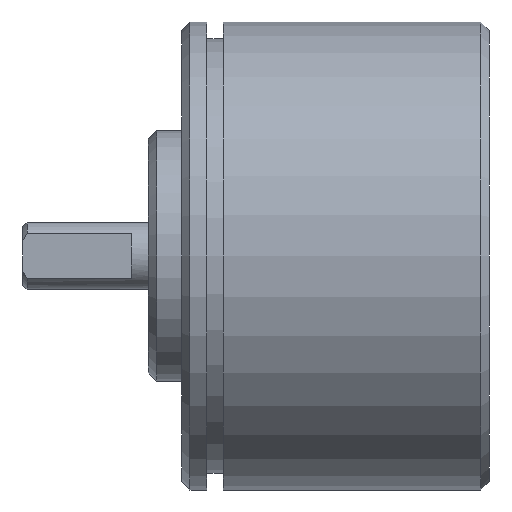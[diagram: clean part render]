
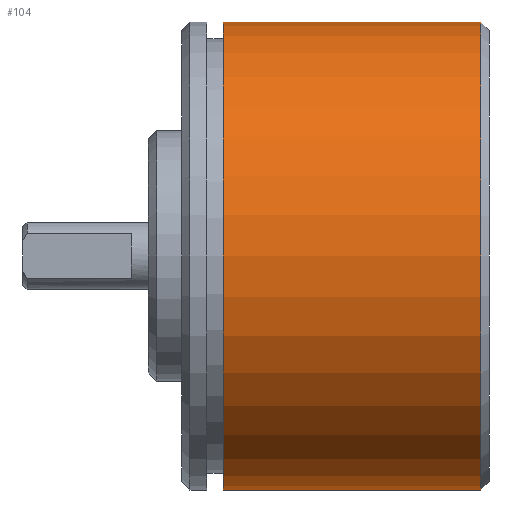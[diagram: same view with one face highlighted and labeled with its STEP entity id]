
A CAD part, front view. The second image highlights one B-rep face of the part: STEP entity #104.
In plain terms, the highlighted cylindrical face has radius 28 mm (diameter 56 mm), a full revolution.
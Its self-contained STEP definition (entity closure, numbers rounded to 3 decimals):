
#104=ADVANCED_FACE('',(#213,#214,#215),#216,.T.);
#213=FACE_OUTER_BOUND('',#368,.T.);
#214=FACE_OUTER_BOUND('',#369,.T.);
#215=FACE_BOUND('',#370,.T.);
#216=CYLINDRICAL_SURFACE('',#371,28.0);
#368=EDGE_LOOP('',(#556));
#369=EDGE_LOOP('',(#557));
#370=EDGE_LOOP('',(#558,#559,#560,#561,#562,#563));
#371=AXIS2_PLACEMENT_3D('',#564,#565,#566);
#556=ORIENTED_EDGE('',*,*,#838,.T.);
#557=ORIENTED_EDGE('',*,*,#839,.F.);
#558=ORIENTED_EDGE('',*,*,#840,.F.);
#559=ORIENTED_EDGE('',*,*,#841,.F.);
#560=ORIENTED_EDGE('',*,*,#842,.F.);
#561=ORIENTED_EDGE('',*,*,#843,.T.);
#562=ORIENTED_EDGE('',*,*,#844,.F.);
#563=ORIENTED_EDGE('',*,*,#845,.T.);
#564=CARTESIAN_POINT('',(0.0,0.0,0.0));
#565=DIRECTION('',(-1.0,0.0,0.0));
#566=DIRECTION('',(0.0,0.0,1.0));
#838=EDGE_CURVE('',#947,#947,#948,.T.);
#839=EDGE_CURVE('',#949,#949,#950,.T.);
#840=EDGE_CURVE('',#951,#952,#953,.F.);
#841=EDGE_CURVE('',#954,#951,#955,.T.);
#842=EDGE_CURVE('',#956,#954,#957,.T.);
#843=EDGE_CURVE('',#956,#958,#959,.T.);
#844=EDGE_CURVE('',#960,#958,#961,.T.);
#845=EDGE_CURVE('',#960,#952,#962,.T.);
#947=VERTEX_POINT('',#1102);
#948=CIRCLE('',#1103,28.0);
#949=VERTEX_POINT('',#1104);
#950=CIRCLE('',#1105,28.0);
#951=VERTEX_POINT('',#1106);
#952=VERTEX_POINT('',#1107);
#953=LINE('',#1108,#1109);
#954=VERTEX_POINT('',#1110);
#955=CIRCLE('',#1111,28.0);
#956=VERTEX_POINT('',#1112);
#957=LINE('',#1113,#1114);
#958=VERTEX_POINT('',#1115);
#959=CIRCLE('',#1116,28.0);
#960=VERTEX_POINT('',#1117);
#961=B_SPLINE_CURVE_WITH_KNOTS('',3,(#1118,#1119,#1120,#1121,#1122,#1123,#1124,#1125,#1126,#1127,#1128,#1129,#1130,#1131,#1132,#1133,#1134,#1135,#1136,#1137,#1138,#1139,#1140,#1141,#1142,#1143,#1144,#1145,#1146,#1147,#1148,#1149,#1150,#1151),.UNSPECIFIED.,.F.,.F.,(4,2,2,2,2,2,2,2,2,2,2,2,2,2,2,2,4),(0.0,0.001,0.001,0.002,0.003,0.003,0.004,0.005,0.005,0.006,0.007,0.008,0.008,0.009,0.01,0.01,0.011),.UNSPECIFIED.);
#962=CIRCLE('',#1152,28.0);
#1102=CARTESIAN_POINT('',(35.8,0.0,28.0));
#1103=AXIS2_PLACEMENT_3D('',#1503,#1504,#1505);
#1104=CARTESIAN_POINT('',(5.0,0.0,28.0));
#1105=AXIS2_PLACEMENT_3D('',#1506,#1507,#1508);
#1106=CARTESIAN_POINT('',(7.5,27.652,4.4));
#1107=CARTESIAN_POINT('',(11.9,27.652,4.4));
#1108=CARTESIAN_POINT('',(0.,27.652,4.4));
#1109=VECTOR('',#1509,1.0);
#1110=CARTESIAN_POINT('',(7.5,27.652,-4.4));
#1111=AXIS2_PLACEMENT_3D('',#1510,#1511,#1512);
#1112=CARTESIAN_POINT('',(11.9,27.652,-4.4));
#1113=CARTESIAN_POINT('',(0.,27.652,-4.4));
#1114=VECTOR('',#1513,1.0);
#1115=CARTESIAN_POINT('',(11.9,27.78,-3.5));
#1116=AXIS2_PLACEMENT_3D('',#1514,#1515,#1516);
#1117=CARTESIAN_POINT('',(11.9,27.78,3.5));
#1118=CARTESIAN_POINT('',(11.9,27.78,3.5));
#1119=CARTESIAN_POINT('',(12.131,27.78,3.5));
#1120=CARTESIAN_POINT('',(12.359,27.783,3.477));
#1121=CARTESIAN_POINT('',(12.807,27.794,3.388));
#1122=CARTESIAN_POINT('',(13.029,27.803,3.321));
#1123=CARTESIAN_POINT('',(13.453,27.823,3.145));
#1124=CARTESIAN_POINT('',(13.654,27.835,3.038));
#1125=CARTESIAN_POINT('',(14.034,27.862,2.784));
#1126=CARTESIAN_POINT('',(14.214,27.876,2.636));
#1127=CARTESIAN_POINT('',(14.536,27.905,2.314));
#1128=CARTESIAN_POINT('',(14.681,27.919,2.138));
#1129=CARTESIAN_POINT('',(14.937,27.946,1.755));
#1130=CARTESIAN_POINT('',(15.045,27.958,1.552));
#1131=CARTESIAN_POINT('',(15.22,27.978,1.131));
#1132=CARTESIAN_POINT('',(15.287,27.986,0.91));
#1133=CARTESIAN_POINT('',(15.378,27.997,0.458));
#1134=CARTESIAN_POINT('',(15.4,28.,0.231));
#1135=CARTESIAN_POINT('',(15.4,28.,-0.226));
#1136=CARTESIAN_POINT('',(15.377,27.997,-0.458));
#1137=CARTESIAN_POINT('',(15.288,27.986,-0.907));
#1138=CARTESIAN_POINT('',(15.222,27.978,-1.125));
#1139=CARTESIAN_POINT('',(15.047,27.958,-1.549));
#1140=CARTESIAN_POINT('',(14.937,27.946,-1.754));
#1141=CARTESIAN_POINT('',(14.684,27.919,-2.133));
#1142=CARTESIAN_POINT('',(14.54,27.905,-2.31));
#1143=CARTESIAN_POINT('',(14.213,27.876,-2.637));
#1144=CARTESIAN_POINT('',(14.037,27.862,-2.781));
#1145=CARTESIAN_POINT('',(13.658,27.835,-3.035));
#1146=CARTESIAN_POINT('',(13.454,27.823,-3.145));
#1147=CARTESIAN_POINT('',(13.03,27.803,-3.32));
#1148=CARTESIAN_POINT('',(12.812,27.794,-3.387));
#1149=CARTESIAN_POINT('',(12.363,27.783,-3.477));
#1150=CARTESIAN_POINT('',(12.131,27.78,-3.5));
#1151=CARTESIAN_POINT('',(11.9,27.78,-3.5));
#1152=AXIS2_PLACEMENT_3D('',#1517,#1518,#1519);
#1503=CARTESIAN_POINT('',(35.8,0.0,0.0));
#1504=DIRECTION('',(-1.0,0.0,0.0));
#1505=DIRECTION('',(0.0,0.0,1.0));
#1506=CARTESIAN_POINT('',(5.0,0.0,0.0));
#1507=DIRECTION('',(-1.0,0.0,0.0));
#1508=DIRECTION('',(0.0,0.0,1.0));
#1509=DIRECTION('',(-1.0,0.0,0.0));
#1510=CARTESIAN_POINT('',(7.5,0.0,0.0));
#1511=DIRECTION('',(1.0,0.,0.));
#1512=DIRECTION('',(0.,1.0,0.0));
#1513=DIRECTION('',(-1.0,0.0,0.0));
#1514=CARTESIAN_POINT('',(11.9,0.0,0.0));
#1515=DIRECTION('',(1.0,0.,0.));
#1516=DIRECTION('',(0.,0.0,-1.0));
#1517=CARTESIAN_POINT('',(11.9,0.0,0.0));
#1518=DIRECTION('',(1.0,0.,0.));
#1519=DIRECTION('',(0.,0.0,-1.0));
